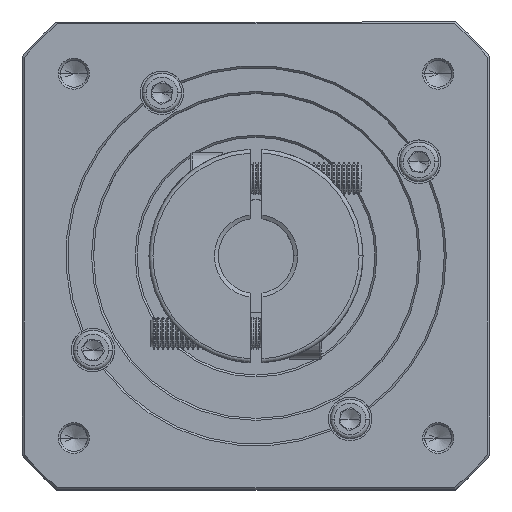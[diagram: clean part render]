
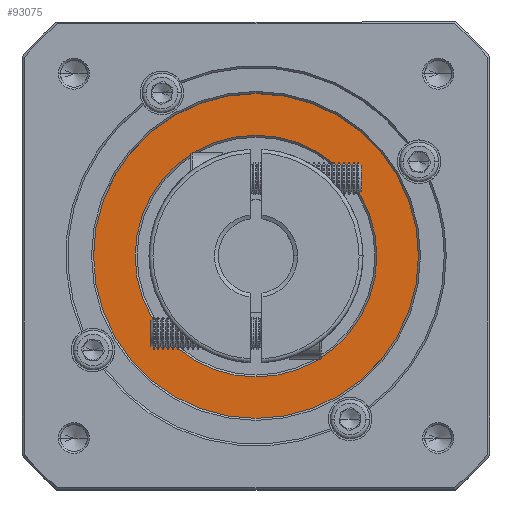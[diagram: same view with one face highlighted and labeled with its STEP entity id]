
A CAD part, top view. The second image highlights one B-rep face of the part: STEP entity #93075.
In plain terms, the highlighted planar face has unit normal (0, 0, 1).
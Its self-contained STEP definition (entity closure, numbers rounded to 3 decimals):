
#4986 = CARTESIAN_POINT ( 'NONE',  ( 73.348, 169.359, 38.453 ) ) ;
#8074 = DIRECTION ( 'NONE',  ( 0., 0., -1. ) ) ;
#8379 = DIRECTION ( 'NONE',  ( 0., 0., 1. ) ) ;
#18805 = ORIENTED_EDGE ( 'NONE', *, *, #94963, .T. ) ;
#22018 = ORIENTED_EDGE ( 'NONE', *, *, #60956, .T. ) ;
#22286 = VERTEX_POINT ( 'NONE', #26619 ) ;
#24991 = AXIS2_PLACEMENT_3D ( 'NONE', #79040, #25140, #88076 ) ;
#25140 = DIRECTION ( 'NONE',  ( 0., 0., -1. ) ) ;
#26619 = CARTESIAN_POINT ( 'NONE',  ( 114.348, 138.859, 38.453 ) ) ;
#27295 = VERTEX_POINT ( 'NONE', #72026 ) ;
#29131 = FACE_BOUND ( 'NONE', #67265, .T. ) ;
#29918 = CARTESIAN_POINT ( 'NONE',  ( 73.348, 138.859, 38.453 ) ) ;
#32901 = EDGE_CURVE ( 'NONE', #22286, #27295, #46103, .T. ) ;
#33515 = VERTEX_POINT ( 'NONE', #4986 ) ;
#33982 = AXIS2_PLACEMENT_3D ( 'NONE', #29918, #92877, #38989 ) ;
#38989 = DIRECTION ( 'NONE',  ( 1., 0., 0. ) ) ;
#45783 = CARTESIAN_POINT ( 'NONE',  ( 73.348, 108.359, 38.453 ) ) ;
#46103 = CIRCLE ( 'NONE', #33982, 41. ) ;
#49202 = DIRECTION ( 'NONE',  ( 0., 0., 1. ) ) ;
#49397 = CIRCLE ( 'NONE', #24991, 30.5 ) ;
#53057 = FACE_OUTER_BOUND ( 'NONE', #114806, .T. ) ;
#55759 = CIRCLE ( 'NONE', #104361, 30.5 ) ;
#55918 = VERTEX_POINT ( 'NONE', #45783 ) ;
#57447 = PLANE ( 'NONE',  #111526 ) ;
#58594 = CIRCLE ( 'NONE', #67408, 41. ) ;
#60956 = EDGE_CURVE ( 'NONE', #55918, #33515, #55759, .T. ) ;
#61961 = CARTESIAN_POINT ( 'NONE',  ( 73.348, 138.859, 38.453 ) ) ;
#62266 = CARTESIAN_POINT ( 'NONE',  ( 73.348, 138.859, 38.453 ) ) ;
#67265 = EDGE_LOOP ( 'NONE', ( #22018, #18805 ) ) ;
#67408 = AXIS2_PLACEMENT_3D ( 'NONE', #62266, #8379, #71345 ) ;
#71018 = DIRECTION ( 'NONE',  ( 0., -1., 0. ) ) ;
#71345 = DIRECTION ( 'NONE',  ( 1., 0., 0. ) ) ;
#72026 = CARTESIAN_POINT ( 'NONE',  ( 32.348, 138.859, 38.453 ) ) ;
#78350 = ORIENTED_EDGE ( 'NONE', *, *, #89981, .T. ) ;
#79040 = CARTESIAN_POINT ( 'NONE',  ( 73.348, 138.859, 38.453 ) ) ;
#88076 = DIRECTION ( 'NONE',  ( 0., -1., 0. ) ) ;
#89981 = EDGE_CURVE ( 'NONE', #27295, #22286, #58594, .T. ) ;
#92877 = DIRECTION ( 'NONE',  ( 0., 0., 1. ) ) ;
#93075 = ADVANCED_FACE ( 'NONE', ( #53057, #29131 ), #57447, .T. ) ;
#94963 = EDGE_CURVE ( 'NONE', #33515, #55918, #49397, .T. ) ;
#103111 = CARTESIAN_POINT ( 'NONE',  ( 73.348, 138.859, 38.453 ) ) ;
#104361 = AXIS2_PLACEMENT_3D ( 'NONE', #61961, #8074, #71018 ) ;
#111526 = AXIS2_PLACEMENT_3D ( 'NONE', #103111, #49202, #112182 ) ;
#112182 = DIRECTION ( 'NONE',  ( 1., 0., 0. ) ) ;
#112803 = ORIENTED_EDGE ( 'NONE', *, *, #32901, .T. ) ;
#114806 = EDGE_LOOP ( 'NONE', ( #112803, #78350 ) ) ;
